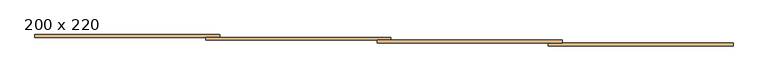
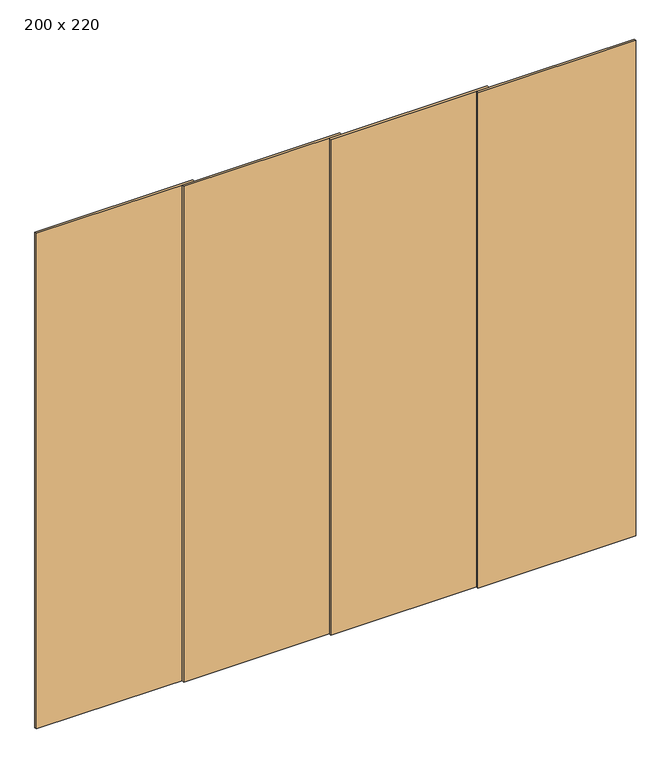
"""IFC4 building model written with IfcOpenShell, lengths in millimetres: door geometry, PORTA DE VIDRO DE CORRER - 4 FOLHAS : 200 x 220."""

from ifc_helpers import new_model, si_unit, origin, origin_with_axes, place, context, project, spatial, polyline, outline, extrude, source, transform, mapped, element, save


def door_200_x_220_cca4099e(model_context):
    return source(origin(), model_context, "Body", "SweptSolid", [
        extrude(outline(polyline([(737.5, -49.3424922), (737.5, -59.3424922), (75.0, -59.3424922), (75.0, -49.3424922), (737.5, -49.3424922)])), origin_with_axes(), (0.0, 0.0, 1.0), 2200.0),
        extrude(outline(polyline([(125.0, -39.3424922), (125.0, -49.3424922), (-537.5, -49.3424922), (-537.5, -39.3424922), (125.0, -39.3424922)])), origin_with_axes(), (0.0, 0.0, 1.0), 2200.0),
        extrude(outline(polyline([(1350.0, -59.3424922), (1350.0, -69.3424922), (687.5, -69.3424922), (687.5, -59.3424922), (1350.0, -59.3424922)])), origin_with_axes(), (0.0, 0.0, 1.0), 2200.0),
        extrude(outline(polyline([(-1150.0, -29.3424922), (-487.5, -29.3424922), (-487.5, -39.3424922), (-1150.0, -39.3424922), (-1150.0, -29.3424922)])), origin_with_axes(), (0.0, 0.0, 1.0), 2200.0),
    ])


if __name__ == "__main__":
    model = new_model("IFC4")
    model_context = context("Model", 3, world=origin())
    ifc_project = project(units=[si_unit("LENGTHUNIT", "METRE", prefix="MILLI")], contexts=[model_context])
    site = spatial("IfcSite", under=ifc_project)
    building = spatial("IfcBuilding", under=site)
    placement = place(None, origin())
    door_200_x_220_shape = door_200_x_220_cca4099e(model_context)
    element("IfcDoor", 1, ObjectType="PORTA DE VIDRO DE CORRER - 4 FOLHAS : 200 x 220", at=placement, inside=building, context=model_context, shape_type="MappedRepresentation", body=[
        mapped(door_200_x_220_shape, transform((0.0, 0.0, 0.0), x_axis=(1.0, 0.0, 0.0), y_axis=(0.0, 1.0, 0.0), z_axis=(0.0, 0.0, 1.0))),
    ])
    save(model, "model.ifc")
